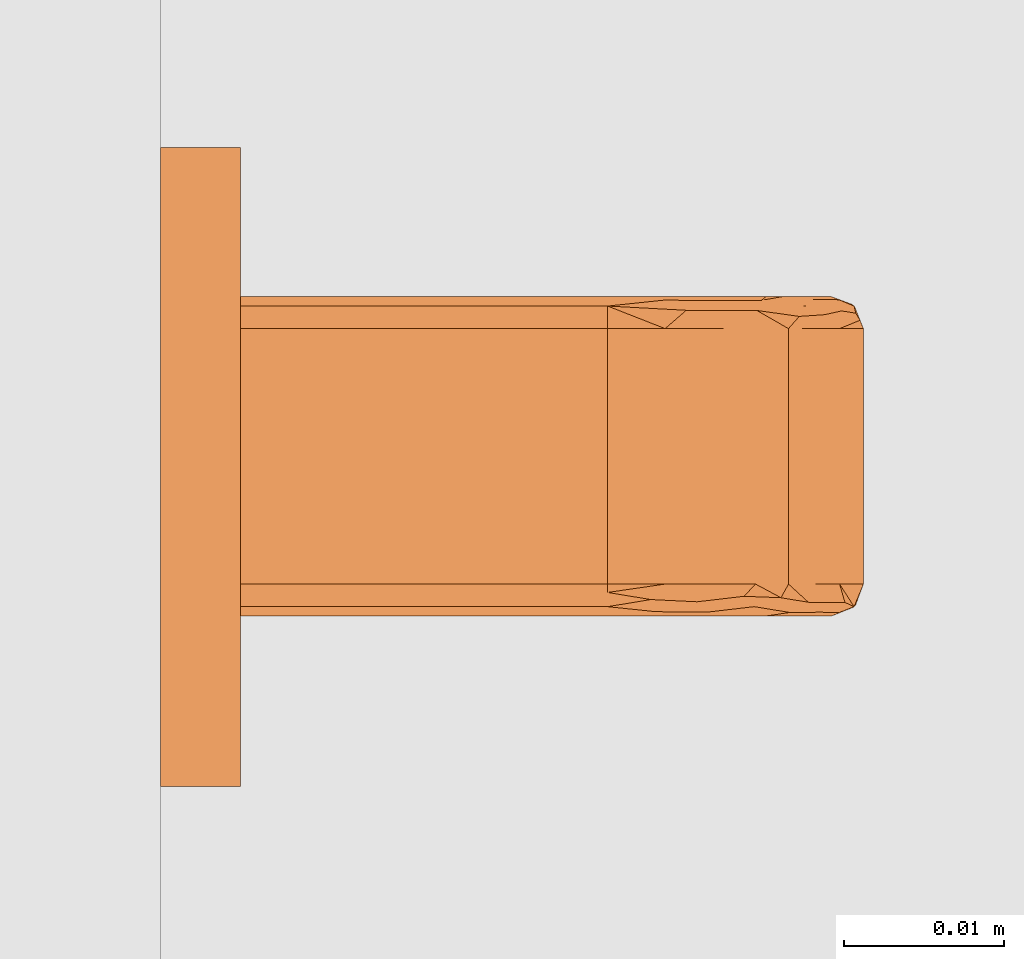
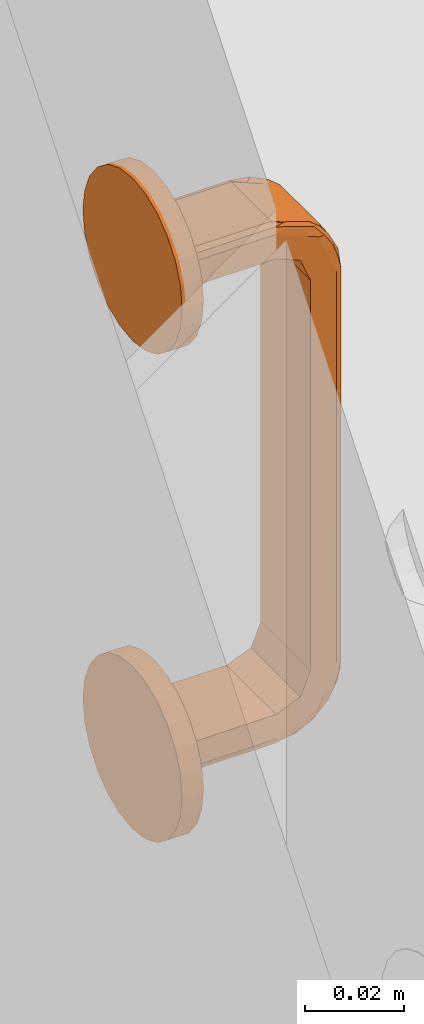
# One storey, part 52 of 67: 1 proxy.
"""IFC4 building model written with IfcOpenShell, lengths in millimetres."""

import ifcopenshell
import ifcopenshell.guid

model = None  # the IFC model being written
_history = None  # IfcOwnerHistory: only IFC2X3 demands one
_inside = {}  # id of a spatial element -> (the spatial element, [elements in it])
_under = {}  # id of a project, library or spatial element -> (it, [spatial elements below it])
_declared = {}  # id of a project -> (the project, [libraries it declares])
_typed = {}  # id of a type object -> (the type object, [elements of that type])
_made_of = {}  # id of a material, layer set ... -> (it, [elements and type objects made of it])


def new_model(schema):
    """Start an empty IFC model of exactly this schema.

    Asked for "IFC4X3", IfcOpenShell would pick the latest addendum, in which some entities
    have other attributes; the version numbers below select the first issue.
    IFC2X3 requires an IfcOwnerHistory on every rooted entity: one is made here for all.
    """
    global model, _history
    if schema == "IFC4X3":
        model = ifcopenshell.file(schema_version=(4, 3, 0, 0))
    else:
        model = ifcopenshell.file(schema=schema)
    _inside.clear()
    _under.clear()
    _declared.clear()
    _typed.clear()
    _made_of.clear()
    _history = None
    if model.schema == "IFC2X3":
        org = make("IfcOrganization", Name="unknown")
        user = make(
            "IfcPersonAndOrganization",
            ThePerson=make("IfcPerson", FamilyName="unknown"),
            TheOrganization=org,
        )
        app = make(
            "IfcApplication",
            ApplicationDeveloper=org,
            Version="unknown",
            ApplicationFullName="unknown",
            ApplicationIdentifier="unknown",
        )
        _history = make(
            "IfcOwnerHistory",
            OwningUser=user,
            OwningApplication=app,
            ChangeAction="ADDED",
            CreationDate=0,
        )
    return model


def make(cls, **values):
    """One entity of the class cls with the attributes given. An attribute that is None is left unset."""
    return model.create_entity(
        cls, **{name: value for name, value in values.items() if value is not None}
    )


def entity(cls, *values):
    """Any entity or typed value of the class cls, its attributes in the order of the schema. None: left unset."""
    e = model.create_entity(cls)
    for i, value in enumerate(values):
        if value is not None:
            e[i] = value
    return e


def rooted(cls, **values):
    """An entity with a GlobalId (a new one), such as an element, a storey or a relation."""
    return make(cls, GlobalId=ifcopenshell.guid.new(), OwnerHistory=_history, **values)


def si_unit(unit_type, name, prefix=None):
    """IfcSIUnit, for example si_unit("LENGTHUNIT", "METRE", prefix="MILLI")."""
    return make("IfcSIUnit", UnitType=unit_type, Prefix=prefix, Name=name)


def converted_unit(unit_type, name, factor, base, dimensions=None, offset=None):
    """IfcConversionBasedUnit, such as the inch: factor (a typed value) times the base unit."""
    return make(
        "IfcConversionBasedUnit"
        if offset is None
        else "IfcConversionBasedUnitWithOffset",
        ConversionOffset=offset,
        Dimensions=None
        if dimensions is None
        else entity("IfcDimensionalExponents", *dimensions),
        UnitType=unit_type,
        Name=name,
        ConversionFactor=make(
            "IfcMeasureWithUnit", ValueComponent=factor, UnitComponent=base
        ),
    )


def assignment(units):
    """IfcUnitAssignment: the units of a project."""
    return None if units is None else make("IfcUnitAssignment", Units=units)


def point(xyz):
    """IfcCartesianPoint."""
    return None if xyz is None else make("IfcCartesianPoint", Coordinates=xyz)


def direction(xyz):
    """IfcDirection."""
    return None if xyz is None else make("IfcDirection", DirectionRatios=xyz)


def frame(location, z_axis=None, x_axis=None):
    """IfcAxis2Placement3D, a coordinate frame: its origin and axes. An axis left out is left unset."""
    return make(
        "IfcAxis2Placement3D",
        Location=point(location),
        Axis=direction(z_axis),
        RefDirection=direction(x_axis),
    )


def origin():
    """The frame at (0, 0, 0) with its axes left unset."""
    return frame((0.0, 0.0, 0.0))


def place(relative_to, where):
    """IfcLocalPlacement: puts the frame where relative to a parent placement (None: the world)."""
    return make(
        "IfcLocalPlacement", PlacementRelTo=relative_to, RelativePlacement=where
    )


def context(
    kind, dimensions, precision=None, world=None, true_north=None, identifier=None
):
    """IfcGeometricRepresentationContext, for example the 3D "Model" context."""
    return make(
        "IfcGeometricRepresentationContext",
        ContextIdentifier=identifier,
        ContextType=kind,
        CoordinateSpaceDimension=dimensions,
        Precision=precision,
        WorldCoordinateSystem=world,
        TrueNorth=true_north,
    )


def subcontext(parent, identifier, kind, view, scale=None):
    """IfcGeometricRepresentationSubContext, for example "Body" below "Model"."""
    return make(
        "IfcGeometricRepresentationSubContext",
        ContextIdentifier=identifier,
        ContextType=kind,
        ParentContext=parent,
        TargetScale=scale,
        TargetView=view,
    )


def project(units=None, contexts=None):
    """IfcProject with its units and contexts."""
    return rooted(
        "IfcProject",
        Name="project",
        RepresentationContexts=contexts,
        UnitsInContext=assignment(units),
    )


def spatial(cls, under=None, at=None, **own):
    """A site, building, storey or space (cls), placed at a placement, below another one or the project."""
    s = rooted(cls, ObjectPlacement=at, **own)
    if under is not None:
        _under.setdefault(under.id(), (under, []))[1].append(s)
    return s


def point_list(points):
    """IfcCartesianPointList2D or 3D."""
    cls = (
        "IfcCartesianPointList2D" if len(points[0]) == 2 else "IfcCartesianPointList3D"
    )
    return make(cls, CoordList=points)


def polygons(points, faces, closed=None, point_numbers=None):
    """IfcPolygonalFaceSet: a face is its outer loop, then its inner loops; points numbered from 1."""
    made = []
    for loops in faces:
        if len(loops) == 1:
            made.append(make("IfcIndexedPolygonalFace", CoordIndex=loops[0]))
        else:
            made.append(
                make(
                    "IfcIndexedPolygonalFaceWithVoids",
                    CoordIndex=loops[0],
                    InnerCoordIndices=loops[1:],
                )
            )
    return make(
        "IfcPolygonalFaceSet",
        Coordinates=point_list(points),
        Closed=closed,
        Faces=made,
        PnIndex=point_numbers,
    )


def shape(context_of_items, identifier, shape_type, items):
    """IfcShapeRepresentation: the items that make up one representation, for example the "Body"."""
    return make(
        "IfcShapeRepresentation",
        ContextOfItems=context_of_items,
        RepresentationIdentifier=identifier,
        RepresentationType=shape_type,
        Items=items,
    )


def source(mapping_origin, context_of_items, identifier, shape_type, items):
    """IfcRepresentationMap: a shape defined once, which mapped items show again and again."""
    return make(
        "IfcRepresentationMap",
        MappingOrigin=mapping_origin,
        MappedRepresentation=shape(context_of_items, identifier, shape_type, items),
    )


def transform(
    local_origin,
    x_axis=None,
    y_axis=None,
    z_axis=None,
    scale=None,
    scale2=None,
    scale3=None,
    uniform=True,
):
    """IfcCartesianTransformationOperator3D, or its non-uniform kind. x_axis, y_axis, z_axis: its Axis1, 2, 3."""
    if uniform:
        return make(
            "IfcCartesianTransformationOperator3D",
            Axis1=direction(x_axis),
            Axis2=direction(y_axis),
            LocalOrigin=point(local_origin),
            Scale=scale,
            Axis3=direction(z_axis),
        )
    return make(
        "IfcCartesianTransformationOperator3DnonUniform",
        Axis1=direction(x_axis),
        Axis2=direction(y_axis),
        LocalOrigin=point(local_origin),
        Scale=scale,
        Axis3=direction(z_axis),
        Scale2=scale2,
        Scale3=scale3,
    )


def mapped(mapping_source, mapping_target):
    """IfcMappedItem: shows the shape of a source again, moved by a transform."""
    return make(
        "IfcMappedItem", MappingSource=mapping_source, MappingTarget=mapping_target
    )


def material(Name=None, Category=None):
    """IfcMaterial."""
    return make("IfcMaterial", Name=Name, Category=Category)


def made_of(thing, what):
    """Note that an element or type object is made of a material, layer set ...; save() writes the relation."""
    if what is not None:
        _made_of.setdefault(what.id(), (what, []))[1].append(thing)
    return thing


def type_object(cls, material=None, **own):
    """A type object (cls), such as IfcWallType, which elements share."""
    return made_of(rooted(cls, **own), material)


def type_shapes(of_type, sources):
    """Give a type object the sources (RepresentationMaps) that its elements show as mapped items."""
    of_type.RepresentationMaps = sources


def element(
    cls,
    number,
    at=None,
    inside=None,
    cuts=None,
    type_object=None,
    material=None,
    context=None,
    identifier="Body",
    shape_type=None,
    held_by="IfcProductDefinitionShape",
    body=None,
    shapes=None,
    **own,
):
    """One element of the class cls, such as IfcWall. Its Tag is "e" and its number.

    at: its placement. inside: the storey or other place that contains it. cuts: it is an
    opening in that element (IfcRelVoidsElement). A single representation is given by context,
    identifier, shape_type and body (its items); several are given by shapes. held_by: the class
    of the entity that holds the representations. save() writes the other relations.
    """
    e = rooted(cls, Tag="e%d" % number, ObjectPlacement=at, **own)
    if body is not None:
        shapes = [shape(context, identifier, shape_type, body)]
    if shapes is not None:
        e.Representation = make(held_by, Representations=shapes)
    if inside is not None:
        _inside.setdefault(inside.id(), (inside, []))[1].append(e)
    if cuts is not None:
        rooted(
            "IfcRelVoidsElement", RelatingBuildingElement=cuts, RelatedOpeningElement=e
        )
    if type_object is not None:
        _typed.setdefault(type_object.id(), (type_object, []))[1].append(e)
    return made_of(e, material)


def aggregate(whole, parts):
    """IfcRelAggregates: a whole, such as a stair, and the parts it consists of."""
    return rooted("IfcRelAggregates", RelatingObject=whole, RelatedObjects=parts)


def save(model, path):
    """Write the relations noted so far, then the file.

    IfcRelAggregates (storeys below a building ...), IfcRelContainedInSpatialStructure (elements
    in a storey), IfcRelDefinesByType, IfcRelAssociatesMaterial and IfcRelDeclares: one each for
    every whole, place, type object, material and project.
    """
    for whole, parts in _under.values():
        aggregate(whole, parts)
    for where, things in _inside.values():
        rooted(
            "IfcRelContainedInSpatialStructure",
            RelatedElements=things,
            RelatingStructure=where,
        )
    for kind, things in _typed.values():
        rooted("IfcRelDefinesByType", RelatedObjects=things, RelatingType=kind)
    for what, things in _made_of.values():
        rooted("IfcRelAssociatesMaterial", RelatedObjects=things, RelatingMaterial=what)
    for by, libraries in _declared.values():
        rooted("IfcRelDeclares", RelatingContext=by, RelatedDefinitions=libraries)
    model.write(path)


model = new_model("IFC4")

# Units and contexts
model_context = context("Model", 3, precision=0.01, world=origin(), true_north=direction((0.0, 1.0)))
body_context = subcontext(model_context, "Body", "Model", "MODEL_VIEW")
ifc_project = project(units=[si_unit("LENGTHUNIT", "METRE", prefix="MILLI"), si_unit("AREAUNIT", "SQUARE_METRE"), si_unit("VOLUMEUNIT", "CUBIC_METRE"), converted_unit("PLANEANGLEUNIT", "DEGREE", entity("IfcPlaneAngleMeasure", 0.017453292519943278), si_unit("PLANEANGLEUNIT", "RADIAN"), dimensions=[0, 0, 0, 0, 0, 0, 0])], contexts=[model_context])

# Site, building, storey, space
site_placement = place(None, origin())
site = spatial("IfcSite", under=ifc_project, at=site_placement, Name="Tomtens navn", CompositionType="ELEMENT")
building_placement = place(site_placement, origin())
building = spatial("IfcBuilding", under=site, at=building_placement, Name="Byggets navn", CompositionType="ELEMENT")
storey_placement = place(building_placement, origin())
storey = spatial("IfcBuildingStorey", under=building, at=storey_placement, Name="Level 01", CompositionType="ELEMENT", Elevation=2.1993652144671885e-25)
space_placement = place(storey_placement, origin())
space = spatial("IfcSpace", under=storey, at=space_placement, Name="102", CompositionType="ELEMENT", PredefinedType="NOTDEFINED")

# Proxy
ifc_material = material(Name="Handtag, vitt", Category="Unassigned")
building_element_proxy_type = type_object("IfcBuildingElementProxyType", Name="Handtag skåp1:Handtag skåp", PredefinedType="NOTDEFINED", material=ifc_material)
shared_shape = source(origin(), body_context, "Body", "Tessellation", [
    polygons([(8.670220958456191, -4.999999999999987, 4.021099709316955), (10.084434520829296, -4.9999999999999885, 3.435313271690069), (10.67022095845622, -4.999999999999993, 2.021099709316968), (10.67022095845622, -5.0000000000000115, -4.0210997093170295), (-9.32977904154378, -5.0000000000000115, -4.0210997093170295), (-9.32977904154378, -4.999999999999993, 2.021099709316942), (-8.743992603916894, -4.9999999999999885, 3.435313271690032), (-7.32977904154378, -4.999999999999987, 4.021099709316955), (8.670220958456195, -28.00000000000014, 4.0210997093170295), (10.084434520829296, -28.000000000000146, 3.435313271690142), (10.67022095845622, -28.00000000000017, 2.021099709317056), (8.670220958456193, -15.654960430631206, 4.02109970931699), (10.67022095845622, -17.34503987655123, 2.021099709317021), (10.08659387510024, -16.21238630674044, 3.433150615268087), (10.67022095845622, -37.914414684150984, -2.085585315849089), (10.67022095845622, -42.02109970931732, -11.999999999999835), (10.67022095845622, -42.02109970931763, -107.99999999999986), (10.67022095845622, -37.914414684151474, -117.91441468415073), (10.67022095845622, -28.00000000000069, -122.02109970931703), (10.67022095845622, -4.999999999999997, -122.02109970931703), (10.67022095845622, -4.999999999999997, -115.97890029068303), (10.67022095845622, -28.000000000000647, -115.97890029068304), (10.67022095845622, -33.641934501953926, -113.64193450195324), (10.67022095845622, -35.978900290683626, -107.99999999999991), (10.67022095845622, -35.978900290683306, -11.999999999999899), (10.67022095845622, -33.64193450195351, -6.358065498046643), (10.67022095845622, -28.000000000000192, -4.021099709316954), (-9.32977904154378, -28.000000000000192, -4.021099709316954), (-9.32977904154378, -33.64193450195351, -6.358065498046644), (-9.32977904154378, -35.97890029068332, -11.999999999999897), (-9.32977904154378, -35.97890029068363, -107.99999999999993), (-9.32977904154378, -33.641934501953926, -113.64193450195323), (-9.32977904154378, -28.000000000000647, -115.978900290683), (-9.32977904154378, -4.999999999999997, -115.978900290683), (-9.32977904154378, -4.999999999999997, -122.02109970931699), (-9.32977904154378, -28.00000000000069, -122.02109970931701), (-9.32977904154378, -37.91441468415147, -117.91441468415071), (-9.32977904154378, -42.0210997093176, -107.9999999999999), (-9.32977904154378, -42.02109970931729, -11.99999999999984), (-9.32977904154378, -37.91441468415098, -2.085585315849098), (-9.32977904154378, -28.000000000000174, 2.0210997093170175), (-8.743992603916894, -28.000000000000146, 3.435313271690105), (-7.329779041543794, -28.000000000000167, 4.0210997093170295), (-9.32977904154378, -15.654960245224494, 2.0210997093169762), (-7.3297790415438, -17.3450402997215, 4.021099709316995), (-8.741829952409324, -16.212386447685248, 3.4374726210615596), (8.670220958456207, -39.328628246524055, -0.6713717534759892), (8.670220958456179, -44.021099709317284, -11.999999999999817), (10.084434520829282, -43.43531327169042, -11.999999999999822), (10.67022095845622, -31.601265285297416, 0.5294067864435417), (8.670220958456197, -41.037713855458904, -4.797469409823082), (10.084434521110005, -40.40873190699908, -2.820007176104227), (8.670220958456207, -35.20253058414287, 1.0377138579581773), (9.809043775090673, -37.34144424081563, 0.5752165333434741), (9.818751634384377, -32.92350079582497, 2.8642465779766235), (10.67022095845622, -39.96775719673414, -7.042792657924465), (10.377327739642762, -28.000000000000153, 2.7282064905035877), (8.670220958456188, -42.529406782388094, -8.398734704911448), (9.779150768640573, -42.65191997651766, -6.400304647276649), (10.431420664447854, -34.75591670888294, 1.3575143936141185), (10.447049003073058, -37.641402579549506, -0.5884869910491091), (10.67022095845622, -34.7578399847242, -0.7780892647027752), (10.453824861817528, -31.5292743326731, 2.5026982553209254), (8.670220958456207, -31.601265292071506, 2.5294067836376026), (8.670220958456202, -40.18317105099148, -2.7344205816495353), (9.435587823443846, -40.00295364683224, -1.6197407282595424), (9.543801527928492, -41.59747716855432, -3.9137042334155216), (10.67022095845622, -38.941085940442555, -4.564188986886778), (10.502246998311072, -40.95405539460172, -4.794062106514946), (10.477567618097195, -42.45420227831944, -8.476170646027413), (9.193272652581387, -43.80444460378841, -11.999999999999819), (9.638611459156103, -43.53877057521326, -9.303396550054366), (10.67022095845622, -40.99442845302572, -9.521396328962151), (-7.329779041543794, -44.021099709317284, -11.999999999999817), (-7.329779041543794, -39.328628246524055, -0.6713717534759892), (-8.743992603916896, -43.43531327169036, -11.999999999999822), (-7.329779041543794, -35.20253057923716, 1.0377138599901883), (-8.743992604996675, -37.179992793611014, 0.40873192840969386), (-9.32977904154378, -40.52940677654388, -8.39873469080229), (-7.329779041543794, -41.03771385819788, -4.7974694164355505), (-8.468601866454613, -40.57521654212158, -2.658555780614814), (-8.478309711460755, -42.86424658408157, -7.076499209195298), (-9.32977904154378, -32.95720734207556, -0.03224280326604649), (-9.036885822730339, -42.72820649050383, -11.999999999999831), (-7.329779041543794, -31.601265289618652, 2.529406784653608), (-8.43870885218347, -33.59969531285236, 2.6519199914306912), (-9.090978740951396, -41.35751443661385, -5.244083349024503), (-9.106607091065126, -39.41151304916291, -2.3585974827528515), (-9.32977904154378, -39.221910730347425, -5.242160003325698), (-9.11338295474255, -42.50269824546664, -8.470725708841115), (-7.329779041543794, -42.52940678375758, -8.398734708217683), (-7.329779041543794, -37.26557941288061, 0.18317105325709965), (-8.095145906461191, -36.54048464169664, 1.37463273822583), (-8.182791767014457, -38.855367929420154, -0.47819170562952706), (-9.32977904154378, -35.43581101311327, -1.0589140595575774), (-7.852830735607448, -28.00000000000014, 3.8044446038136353), (-8.29816953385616, -30.69660343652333, 3.5387705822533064), (-9.060718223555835, -31.048754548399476, 2.7104148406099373), (-9.074370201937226, -34.340507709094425, 1.5930015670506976), (-9.32977904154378, -30.47860367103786, 0.9944284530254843), (-7.32977904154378, -33.664314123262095, 1.6748639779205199), (8.670220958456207, -33.664314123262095, 1.6748639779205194), (8.670220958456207, -30.748770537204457, 2.882521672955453), (-7.32977904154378, -41.67486397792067, -6.335685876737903), (8.670220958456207, -41.67486397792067, -6.335685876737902), (8.670220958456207, -40.50174611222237, -3.5035288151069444), (-7.32977904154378, -36.496471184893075, 0.5017461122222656), (8.670220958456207, -36.496471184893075, 0.5017461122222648), (-7.32977904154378, -30.83215706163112, 2.847981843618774), (8.670220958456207, -42.882521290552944, -9.251228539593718), (-7.32977904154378, -42.84798184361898, -9.167842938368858), (-7.32977904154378, -40.501746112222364, -3.5035288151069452), (8.670220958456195, -44.0210997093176, -107.99999999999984), (10.084434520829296, -43.435313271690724, -107.99999999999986), (10.67022095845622, -42.02109970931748, -61.38015936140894), (8.670220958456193, -44.021099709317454, -59.99999999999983), (8.670220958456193, -44.02109970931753, -83.30991987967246), (10.67022095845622, -42.02109970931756, -84.69007929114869), (8.670220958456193, -44.021099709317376, -36.69008012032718), (10.67022095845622, -42.02109970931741, -36.69007929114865), (10.67022095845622, -42.02109970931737, -24.34503925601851), (8.670220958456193, -44.021099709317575, -95.65495940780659), (8.670220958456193, -44.02109970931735, -24.345040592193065), (10.67022095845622, -42.021099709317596, -95.65495996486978), (10.084434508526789, -43.43531328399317, -90.1725199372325), (10.67022095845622, -42.021099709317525, -73.03511932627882), (10.043884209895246, -43.4747328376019, -67.20763959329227), (10.084434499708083, -43.435313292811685, -30.517560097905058), (10.084434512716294, -43.435313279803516, -43.7229280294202), (10.67022095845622, -42.021099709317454, -49.035119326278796), (10.049878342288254, -43.469044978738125, -55.462843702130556), (8.670220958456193, -44.02109970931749, -71.65495993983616), (10.188152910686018, -43.32336027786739, -78.66752152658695), (8.670220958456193, -44.02109970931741, -48.345040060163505), (-8.743992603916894, -43.43531327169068, -107.99999999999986), (-7.329779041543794, -44.0210997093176, -107.99999999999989), (-7.3297790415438, -44.02109970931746, -61.38015933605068), (-9.32977904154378, -42.021099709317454, -59.999999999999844), (-9.32977904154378, -42.02109970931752, -83.30992008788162), (-7.329779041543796, -44.02109970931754, -84.69007966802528), (-9.32977904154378, -42.02109970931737, -36.6900794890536), (-7.329779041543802, -44.021099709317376, -36.69007998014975), (-7.329779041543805, -44.02109970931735, -24.345039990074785), (-9.32977904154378, -42.02109970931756, -95.65495983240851), (-9.32977904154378, -42.02109970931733, -24.34503974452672), (-7.329779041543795, -44.021099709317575, -95.6549600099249), (-8.743992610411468, -43.43531326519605, -90.17252002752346), (-7.329779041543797, -44.0210997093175, -73.03511950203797), (-8.783412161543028, -43.39476296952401, -67.20763991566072), (-8.743992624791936, -43.43531325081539, -30.51756039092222), (-8.743992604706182, -43.43531327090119, -43.72292838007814), (-7.3297790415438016, -44.02109970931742, -49.03511997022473), (-8.777724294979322, -43.40075710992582, -55.462844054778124), (-9.32977904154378, -42.02109970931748, -71.65496025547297), (-8.632039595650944, -43.53903167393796, -78.66752173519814), (-9.32977904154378, -42.021099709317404, -48.34503974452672), (8.670220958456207, -39.32862824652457, -119.32862824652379), (8.670220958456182, -28.000000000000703, -124.02109970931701), (10.08443452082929, -28.0000000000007, -123.43531327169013), (10.67022095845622, -40.52940678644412, -111.60126528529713), (8.670220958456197, -35.202530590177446, -121.03771385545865), (10.084434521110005, -37.17999282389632, -120.40873190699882), (8.670220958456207, -41.03771385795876, -115.20253058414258), (9.809043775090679, -40.57521653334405, -117.34144424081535), (9.818751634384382, -42.864246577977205, -112.9235007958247), (10.67022095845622, -32.95720734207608, -119.96775719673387), (10.377327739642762, -42.728206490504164, -107.99999999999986), (8.67022095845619, -31.601265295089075, -122.52940678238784), (9.779150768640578, -33.59969535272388, -122.6519199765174), (10.431420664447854, -41.3575143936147, -114.75591670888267), (10.447049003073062, -39.41151300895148, -117.64140257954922), (10.67022095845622, -39.2219107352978, -114.75783998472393), (10.453824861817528, -42.50269825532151, -111.52927433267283), (8.670220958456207, -42.52940678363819, -111.60126529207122), (8.670220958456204, -37.26557941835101, -120.18317105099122), (9.435587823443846, -38.38025927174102, -120.00295364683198), (9.543801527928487, -36.08629576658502, -121.59747716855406), (10.67022095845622, -35.435811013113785, -118.9410859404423), (10.502246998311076, -35.205937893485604, -120.95405539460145), (10.477567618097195, -31.52382935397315, -122.45420227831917), (9.193272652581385, -28.0000000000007, -123.80444460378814), (9.638611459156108, -30.69660344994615, -123.538770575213), (10.67022095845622, -30.47860367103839, -120.99442845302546), (-7.329779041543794, -28.000000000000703, -124.02109970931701), (-7.329779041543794, -39.32862824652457, -119.32862824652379), (-8.743992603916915, -28.0000000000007, -123.43531327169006), (-7.329779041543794, -41.03771385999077, -115.20253057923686), (-8.743992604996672, -40.40873192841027, -117.17999279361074), (-9.32977904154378, -31.60126530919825, -120.52940677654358), (-7.329779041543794, -35.20253058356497, -121.03771385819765), (-8.468601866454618, -37.341444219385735, -120.57521654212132), (-8.478309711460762, -32.92350079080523, -122.8642465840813), (-9.32977904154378, -39.967757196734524, -112.9572073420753), (-9.036885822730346, -28.000000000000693, -122.72820649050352), (-7.329779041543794, -42.529406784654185, -111.60126528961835), (-8.438708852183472, -42.65191999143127, -113.59969531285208), (-9.090978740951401, -34.75591665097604, -121.35751443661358), (-9.106607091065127, -37.64140251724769, -119.41151304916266), (-9.32977904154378, -34.75783999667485, -119.22191073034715), (-9.113382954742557, -31.529274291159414, -122.50269824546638), (-7.329779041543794, -31.601265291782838, -122.52940678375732), (-7.329779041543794, -40.18317105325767, -117.26557941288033), (-8.095145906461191, -41.37463273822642, -116.54048464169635), (-8.182791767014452, -39.521808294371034, -118.8553679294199), (-9.32977904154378, -38.941085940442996, -115.435811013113), (-7.852830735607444, -43.804444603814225, -107.99999999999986), (-8.298169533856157, -43.53877058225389, -110.69660343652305), (-9.060718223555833, -42.710414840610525, -111.04875454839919), (-9.074370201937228, -41.59300156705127, -114.34050770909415), (-9.32977904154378, -40.99442845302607, -110.47860367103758), (-7.32977904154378, -41.6748639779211, -113.66431412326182), (8.670220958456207, -41.6748639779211, -113.66431412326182), (8.670220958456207, -42.88252167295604, -110.74877053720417), (-7.32977904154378, -33.66431412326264, -121.67486397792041), (8.670220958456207, -33.66431412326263, -121.67486397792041), (8.670220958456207, -36.4964711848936, -120.50174611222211), (-7.32977904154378, -40.50174611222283, -116.49647118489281), (8.670220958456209, -40.50174611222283, -116.49647118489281), (-7.32977904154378, -42.84798184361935, -110.83215706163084), (8.670220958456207, -30.748771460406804, -122.88252129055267), (-7.32977904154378, -30.832157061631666, -122.84798184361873), (-7.32977904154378, -36.49647118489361, -120.50174611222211), (8.670220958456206, -4.99999999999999, -124.02109970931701), (-7.329779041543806, -4.99999999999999, -124.021099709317), (-8.743992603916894, -4.99999999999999, -123.43531327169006), (10.084434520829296, -4.99999999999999, -123.43531327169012), (8.670220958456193, -17.345041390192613, -124.021099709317), (10.67022095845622, -15.654959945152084, -122.02109970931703), (10.086593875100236, -16.787613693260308, -123.43315061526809), (-9.32977904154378, -17.34504010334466, -122.02109970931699), (-7.3297790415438, -15.654959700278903, -124.021099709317), (-8.741829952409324, -16.787613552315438, -123.43747262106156)], [[[8, 1, 2, 3, 4, 5, 6, 7]], [[30, 25, 24, 31]], [[35, 34, 21, 20, 226, 223, 224, 225]], [[13, 10, 57, 11]], [[10, 13, 14]], [[14, 12, 9]], [[12, 2, 1]], [[14, 2, 12]], [[3, 14, 13]], [[3, 2, 14]], [[9, 10, 14]], [[4, 3, 13, 11, 50, 62, 15, 68, 56, 73, 16, 121, 120, 130, 115, 126, 118, 124, 17, 160, 172, 18, 178, 166, 183, 19, 228, 20, 21, 22, 23, 24, 25, 26, 27]], [[5, 4, 27, 28]], [[184, 231, 224, 223, 227, 158]], [[34, 35, 230, 36, 189, 199, 37, 205, 193, 210, 38, 144, 139, 154, 138, 156, 141, 145, 39, 79, 89, 40, 95, 83, 100, 41, 44, 6, 5, 28, 29, 30, 31, 32, 33]], [[45, 42, 96, 43]], [[42, 45, 46]], [[46, 44, 41]], [[44, 7, 6]], [[46, 7, 44]], [[8, 46, 45]], [[8, 7, 46]], [[41, 42, 46]], [[1, 8, 45, 43, 9, 12]], [[33, 22, 21, 34]], [[61, 62, 60]], [[69, 56, 68]], [[47, 65, 66]], [[53, 54, 55]], [[59, 51, 105, 58]], [[67, 65, 106, 51]], [[70, 56, 69]], [[63, 60, 50]], [[10, 64, 55]], [[52, 67, 59]], [[54, 53, 108, 47]], [[58, 71, 72]], [[60, 55, 54]], [[68, 61, 69]], [[67, 52, 66]], [[15, 61, 68]], [[63, 10, 55]], [[11, 57, 10, 63]], [[71, 58, 110, 48]], [[49, 16, 70]], [[61, 60, 54]], [[50, 11, 63]], [[52, 61, 54]], [[62, 61, 15]], [[62, 50, 60]], [[55, 60, 63]], [[10, 9, 103, 64]], [[55, 64, 102, 53]], [[52, 54, 66]], [[54, 47, 66]], [[65, 67, 66]], [[51, 59, 67]], [[61, 52, 69]], [[52, 59, 69]], [[70, 69, 59]], [[59, 72, 70]], [[70, 16, 73, 56]], [[72, 71, 49]], [[70, 72, 49]], [[58, 72, 59]], [[26, 29, 28, 27]], [[25, 30, 29, 26]], [[96, 85, 109, 43]], [[90, 87, 79]], [[86, 77, 101, 85]], [[98, 99, 86]], [[93, 92, 107, 77]], [[87, 82, 81]], [[81, 82, 80]], [[99, 95, 78]], [[88, 89, 87]], [[86, 99, 78]], [[78, 94, 93]], [[76, 91, 82]], [[81, 80, 112, 75]], [[92, 93, 94]], [[94, 78, 88]], [[40, 88, 95]], [[90, 76, 82]], [[39, 84, 76, 90]], [[98, 97, 42]], [[97, 98, 86]], [[88, 87, 81]], [[79, 39, 90]], [[88, 81, 94]], [[89, 88, 40]], [[89, 79, 87]], [[82, 87, 90]], [[76, 74, 111, 91]], [[82, 91, 104, 80]], [[77, 86, 93]], [[86, 78, 93]], [[81, 75, 94]], [[92, 94, 75]], [[95, 88, 78]], [[97, 96, 42]], [[85, 96, 97]], [[85, 97, 86]], [[42, 41, 98]], [[100, 83, 95, 99]], [[99, 98, 100]], [[98, 41, 100]], [[103, 9, 43, 109, 85, 101, 77, 107, 92, 75, 47, 108, 53, 102, 64]], [[105, 51, 106, 65, 47, 75, 112, 80, 104, 91, 111, 74, 48, 110, 58]], [[121, 16, 49, 128, 129, 130, 120]], [[118, 125, 114, 167, 17, 124]], [[126, 133, 118]], [[126, 115, 127]], [[123, 119, 134, 129, 128, 49, 71, 48]], [[125, 117, 122, 113, 114]], [[131, 130, 129]], [[130, 131, 115]], [[126, 127, 133]], [[127, 116, 132]], [[133, 117, 125]], [[131, 134, 116]], [[131, 116, 127]], [[115, 131, 127]], [[131, 129, 134]], [[133, 127, 132]], [[133, 132, 117]], [[118, 133, 125]], [[143, 74, 76, 150, 151, 152, 142]], [[140, 147, 135, 206, 136, 146]], [[148, 155, 140]], [[148, 137, 149]], [[145, 141, 156, 151, 150, 76, 84, 39]], [[147, 139, 144, 38, 135]], [[153, 152, 151]], [[152, 153, 137]], [[148, 149, 155]], [[149, 138, 154]], [[155, 139, 147]], [[153, 156, 138]], [[153, 138, 149]], [[137, 153, 149]], [[153, 151, 156]], [[155, 149, 154]], [[155, 154, 139]], [[140, 155, 147]], [[48, 74, 143, 142, 152, 137, 148, 140, 146, 136, 113, 122, 117, 132, 116, 134, 119, 123]], [[171, 172, 170]], [[179, 166, 178]], [[157, 176, 164]], [[163, 164, 165]], [[169, 161, 215, 168]], [[176, 157, 175]], [[180, 166, 179]], [[173, 170, 160]], [[114, 174, 165]], [[162, 177, 169]], [[164, 163, 218, 157]], [[168, 181, 182]], [[170, 165, 164]], [[178, 171, 179]], [[177, 162, 176]], [[18, 171, 178]], [[173, 114, 165]], [[17, 167, 114, 173]], [[181, 168, 220, 158]], [[159, 19, 180]], [[171, 170, 164]], [[160, 17, 173]], [[162, 171, 164]], [[172, 171, 18]], [[172, 160, 170]], [[165, 170, 173]], [[114, 113, 213, 174]], [[165, 174, 212, 163]], [[177, 175, 216, 161]], [[164, 176, 162]], [[175, 177, 176]], [[161, 169, 177]], [[171, 162, 179]], [[162, 169, 179]], [[180, 179, 169]], [[169, 182, 180]], [[180, 19, 183, 166]], [[182, 181, 159]], [[180, 182, 159]], [[168, 182, 169]], [[23, 32, 31, 24]], [[22, 33, 32, 23]], [[206, 195, 219, 136]], [[200, 197, 189]], [[196, 187, 211, 195]], [[208, 209, 196]], [[203, 202, 217, 187]], [[197, 192, 191]], [[191, 192, 190]], [[209, 205, 188]], [[198, 199, 197]], [[196, 209, 188]], [[188, 204, 203]], [[186, 201, 192]], [[191, 190, 222, 185]], [[202, 203, 204]], [[203, 196, 188]], [[37, 198, 205]], [[200, 186, 192]], [[36, 194, 186, 200]], [[208, 207, 135]], [[207, 208, 196]], [[198, 197, 191]], [[189, 36, 200]], [[198, 191, 204]], [[199, 198, 37]], [[199, 189, 197]], [[192, 197, 200]], [[186, 184, 221, 201]], [[192, 201, 214, 190]], [[196, 203, 187]], [[198, 204, 188]], [[191, 185, 204]], [[202, 204, 185]], [[205, 198, 188]], [[207, 206, 135]], [[195, 206, 207]], [[195, 207, 196]], [[135, 38, 208]], [[210, 193, 205, 209]], [[209, 208, 210]], [[208, 38, 210]], [[213, 113, 136, 219, 195, 211, 187, 217, 202, 185, 157, 218, 163, 212, 174]], [[215, 161, 216, 175, 157, 185, 222, 190, 214, 201, 221, 184, 158, 220, 168]], [[228, 226, 20]], [[226, 228, 229]], [[229, 227, 223]], [[227, 159, 181, 158]], [[229, 159, 227]], [[19, 229, 228]], [[19, 159, 229]], [[223, 226, 229]], [[231, 225, 224]], [[225, 231, 232]], [[232, 230, 35]], [[230, 186, 194, 36]], [[232, 186, 230]], [[184, 232, 231]], [[184, 186, 232]], [[35, 225, 232]]], closed=True),
    polygons([(-20.00000000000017, -4.999999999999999, 1.386238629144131e-14), (-19.318516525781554, -4.999999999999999, -5.176380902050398), (-17.320508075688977, -4.999999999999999, -9.999999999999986), (-14.14213562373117, -4.999999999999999, -14.142135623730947), (-10.000000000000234, -4.999999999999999, -17.320508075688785), (-5.176380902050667, -4.999999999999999, -19.318516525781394), (-2.580269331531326e-13, -4.999999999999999, -20.00000000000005), (5.176380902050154, -4.999999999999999, -19.31851652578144), (9.999999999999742, -4.999999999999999, -17.320508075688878), (14.142135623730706, -4.999999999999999, -14.142135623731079), (17.320508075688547, -4.999999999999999, -10.000000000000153), (19.318516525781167, -4.999999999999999, -5.176380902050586), (19.999999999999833, -4.999999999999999, -5.075939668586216e-14), (19.3185165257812, -4.999999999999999, 5.17638090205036), (17.32050807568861, -4.999999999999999, 9.999999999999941), (14.142135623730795, -4.999999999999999, 14.142135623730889), (9.99999999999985, -4.999999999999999, 17.32050807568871), (5.176380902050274, -4.999999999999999, 19.31851652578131), (-1.3958834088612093e-13, -4.999999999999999, 19.99999999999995), (-5.176380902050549, -4.999999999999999, 19.318516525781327), (-10.000000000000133, -4.999999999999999, 17.320508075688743), (-14.142135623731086, -4.999999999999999, 14.142135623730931), (-17.320508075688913, -4.999999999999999, 9.999999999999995), (-19.318516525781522, -4.999999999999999, 5.176380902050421), (-20.00000000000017, 0.0, 4.9806020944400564e-15), (-19.318516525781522, 0.0, 5.176380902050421), (-17.320508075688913, 0.0, 9.999999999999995), (-14.142135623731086, 0.0, 14.142135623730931), (-10.000000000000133, 0.0, 17.320508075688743), (-5.176380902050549, 0.0, 19.318516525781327), (-1.3958834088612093e-13, 0.0, 19.99999999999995), (5.176380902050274, 0.0, 19.31851652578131), (9.99999999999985, 0.0, 17.32050807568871), (14.142135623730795, 0.0, 14.142135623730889), (17.32050807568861, 0.0, 9.999999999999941), (19.3185165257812, 0.0, 5.17638090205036), (19.999999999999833, 0.0, -1.622393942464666e-13), (19.318516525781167, 0.0, -5.176380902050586), (17.320508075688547, 0.0, -10.000000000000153), (14.142135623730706, 0.0, -14.142135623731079), (9.999999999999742, 0.0, -17.320508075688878), (5.176380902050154, 0.0, -19.31851652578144), (-2.580269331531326e-13, 0.0, -20.00000000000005), (-5.176380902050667, 0.0, -19.318516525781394), (-10.000000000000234, 0.0, -17.320508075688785), (-14.14213562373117, 0.0, -14.142135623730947), (-17.320508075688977, 0.0, -9.999999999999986), (-19.318516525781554, 0.0, -5.176380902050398)], [[[8, 9, 10, 11, 12, 13, 14, 15, 16, 17, 18, 19, 20, 21, 22, 23, 24, 1, 2, 3, 4, 5, 6, 7]], [[31, 32, 33, 34, 35, 36, 37, 38, 39, 40, 41, 42, 43, 44, 45, 46, 47, 48, 25, 26, 27, 28, 29, 30]], [[48, 2, 1, 25]], [[47, 3, 2, 48]], [[5, 4, 46, 45]], [[47, 46, 4, 3]], [[6, 5, 45, 44]], [[7, 6, 44, 43]], [[42, 8, 7, 43]], [[41, 9, 8, 42]], [[11, 10, 40, 39]], [[41, 40, 10, 9]], [[12, 11, 39, 38]], [[13, 12, 38, 37]], [[36, 14, 13, 37]], [[35, 15, 14, 36]], [[17, 16, 34, 33]], [[35, 34, 16, 15]], [[18, 17, 33, 32]], [[19, 18, 32, 31]], [[30, 20, 19, 31]], [[29, 21, 20, 30]], [[23, 22, 28, 27]], [[29, 28, 22, 21]], [[24, 23, 27, 26]], [[1, 24, 26, 25]]], closed=True),
    polygons([(-20.000000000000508, -4.999999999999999, -120.0), (-19.31851652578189, -4.999999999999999, -125.17638090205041), (-17.32050807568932, -4.999999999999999, -130.0), (-14.142135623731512, -4.999999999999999, -134.14213562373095), (-10.000000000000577, -4.999999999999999, -137.3205080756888), (-5.176380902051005, -4.999999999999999, -139.3185165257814), (-6.006528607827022e-13, -4.999999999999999, -140.00000000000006), (5.176380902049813, -4.999999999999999, -139.31851652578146), (9.999999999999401, -4.999999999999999, -137.3205080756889), (14.142135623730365, -4.999999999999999, -134.1421356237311), (17.320508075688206, -4.999999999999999, -130.00000000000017), (19.318516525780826, -4.999999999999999, -125.1763809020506), (19.999999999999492, -4.999999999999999, -120.00000000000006), (19.31851652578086, -4.999999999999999, -114.82361909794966), (17.32050807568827, -4.999999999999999, -110.00000000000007), (14.142135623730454, -4.999999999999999, -105.85786437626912), (9.99999999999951, -4.999999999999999, -102.6794919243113), (5.176380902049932, -4.999999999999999, -100.6814834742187), (-4.779843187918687e-13, -4.999999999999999, -100.00000000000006), (-5.176380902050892, -4.999999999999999, -100.68148347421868), (-10.000000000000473, -4.999999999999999, -102.67949192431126), (-14.142135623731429, -4.999999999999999, -105.85786437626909), (-17.320508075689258, -4.999999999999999, -110.00000000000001), (-19.31851652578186, -4.999999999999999, -114.82361909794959), (-20.000000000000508, 0.0, -120.00000000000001), (-19.31851652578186, 0.0, -114.82361909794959), (-17.320508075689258, 0.0, -110.00000000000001), (-14.142135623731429, 0.0, -105.85786437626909), (-10.000000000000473, 0.0, -102.67949192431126), (-5.176380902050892, 0.0, -100.68148347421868), (-4.779843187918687e-13, 0.0, -100.00000000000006), (5.176380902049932, 0.0, -100.6814834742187), (9.99999999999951, 0.0, -102.6794919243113), (14.142135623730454, 0.0, -105.85786437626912), (17.32050807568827, 0.0, -110.00000000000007), (19.31851652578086, 0.0, -114.82361909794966), (19.999999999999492, 0.0, -120.00000000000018), (19.318516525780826, 0.0, -125.1763809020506), (17.320508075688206, 0.0, -130.00000000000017), (14.142135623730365, 0.0, -134.1421356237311), (9.999999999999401, 0.0, -137.3205080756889), (5.176380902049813, 0.0, -139.31851652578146), (-6.006528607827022e-13, 0.0, -140.00000000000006), (-5.176380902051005, 0.0, -139.3185165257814), (-10.000000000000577, 0.0, -137.3205080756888), (-14.142135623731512, 0.0, -134.14213562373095), (-17.32050807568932, 0.0, -130.0), (-19.31851652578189, 0.0, -125.17638090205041)], [[[7, 8, 9, 10, 11, 12, 13, 14, 15, 16, 17, 18, 19, 20, 21, 22, 23, 24, 1, 2, 3, 4, 5, 6]], [[31, 32, 33, 34, 35, 36, 37, 38, 39, 40, 41, 42, 43, 44, 45, 46, 47, 48, 25, 26, 27, 28, 29, 30]], [[48, 2, 1, 25]], [[47, 3, 2, 48]], [[5, 4, 46, 45]], [[47, 46, 4, 3]], [[6, 5, 45, 44]], [[7, 6, 44, 43]], [[42, 8, 7, 43]], [[41, 9, 8, 42]], [[11, 10, 40, 39]], [[41, 40, 10, 9]], [[12, 11, 39, 38]], [[13, 12, 38, 37]], [[36, 14, 13, 37]], [[35, 15, 14, 36]], [[17, 16, 34, 33]], [[35, 34, 16, 15]], [[18, 17, 33, 32]], [[19, 18, 32, 31]], [[30, 20, 19, 31]], [[29, 21, 20, 30]], [[23, 22, 28, 27]], [[29, 28, 22, 21]], [[24, 23, 27, 26]], [[1, 24, 26, 25]]], closed=True),
])
type_shapes(building_element_proxy_type, [shared_shape])
proxy_placement = place(space_placement, frame((64165.85352810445, 20531.466456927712, 1120.0), z_axis=(0.0, 0.0, 1.0), x_axis=(0.0, 1.0, 0.0)))
element("IfcBuildingElementProxy", 1, at=proxy_placement, inside=space, type_object=building_element_proxy_type, material=ifc_material, Name="Handtag skåp1:Handtag skåp", PredefinedType="NOTDEFINED", context=body_context, shape_type="MappedRepresentation", body=[
    mapped(shared_shape, transform((0.0, 0.0, 0.0), scale=1.0)),
])

save(model, "model.ifc")
